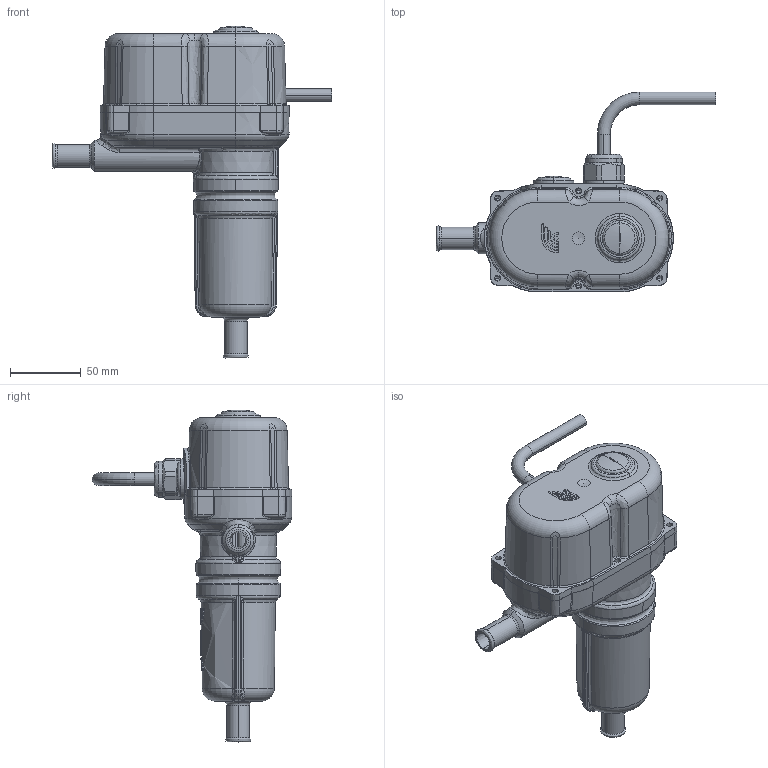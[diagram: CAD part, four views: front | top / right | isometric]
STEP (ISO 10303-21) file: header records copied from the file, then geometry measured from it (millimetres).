
FILE_DESCRIPTION (( 'STEP AP214' ), '1' );
FILE_NAME ('ThermoCar.STEP', '2016-04-27T08:11:02', ( '' ), ( '' ), 'SwSTEP 2.0', 'SolidWorks 2014', '' );
FILE_SCHEMA (( 'AUTOMOTIVE_DESIGN' ));
Length unit declared in the file: millimetre
Products named in the file (14): Thermostat; Pièce1; CORPS Thermocar - rev4; None_2; 03; ThermoCar; Pièce3^ThermoCar; 462614_1; 1597020-C_1; 1597020-B_1; 1597020-A_1; joint01; resistance; BOUCHON_2
Assembly tree (14 placements, depth 3):
  ThermoCar
    03
    CORPS Thermocar - rev4
      None_2
    Pièce1
    Thermostat
    BOUCHON_2  x2
    resistance
    joint01
    462614_1
      1597020-A_1
      1597020-B_1
      1597020-C_1
    Pièce3^ThermoCar
Bounding box: 198.04 x 141.46 x 234.98 mm (x, y, z)
Volume: 425387.2 mm3; surface area: 221357.4 mm2
Topology: 15 solids, 16 shells, 1738 faces, 4662 edges, 3016 vertices
Faces by surface type: plane 593, bspline 492, cylinder 406, torus 165, cone 55, sphere 27
Entity records: 138020 total; most frequent: CARTESIAN_POINT 96820, ORIENTED_EDGE 9154, DIRECTION 6434, EDGE_CURVE 4577, VERTEX_POINT 2986, AXIS2_PLACEMENT_3D 2368, EDGE_LOOP 1861, ADVANCED_FACE 1716
